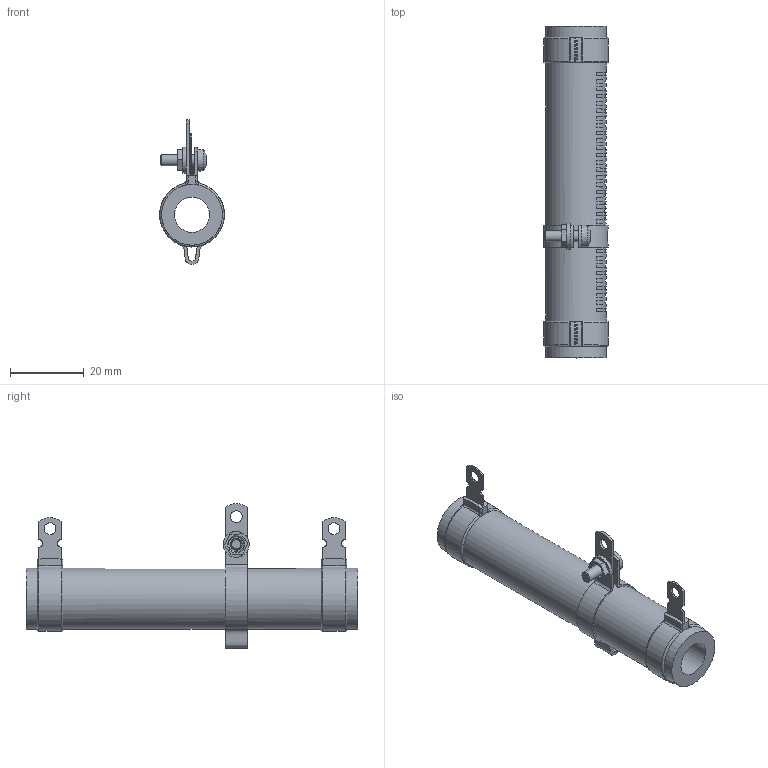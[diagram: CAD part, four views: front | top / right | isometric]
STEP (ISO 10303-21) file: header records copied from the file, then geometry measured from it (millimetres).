
FILE_DESCRIPTION(/* description */ (''),/* implementation_level */ '2;1');
FILE_NAME(/* name */ 'C:\_Vault\Dati\CATALOGO\RCA-RSA\R 25-1000\3D\RCAR 52.stp',/* time_stamp */ '2014-03-18T17:52:31+01:00',/* author */ ('stefano'),/* organization */ (''),/* preprocessor_version */ 'ST-DEVELOPER v15.2',/* originating_system */ 'Autodesk Inventor 2014',/* authorisation */ '');
FILE_SCHEMA (('AUTOMOTIVE_DESIGN { 1 0 10303 214 3 1 1 }'));
Length unit declared in the file: millimetre
Products named in the file (1): RCAR 52
Bounding box: 17.59 x 90 x 39.18 mm (x, y, z)
Volume: 13762.8 mm3; surface area: 9142.5 mm2
Topology: 1 solids, 1 shells, 307 faces, 759 edges, 493 vertices
Faces by surface type: plane 194, cylinder 77, cone 18, torus 13, bspline 4, sphere 1
Full cylindrical faces by diameter (mm): 2.75 x1, 3 x1, 3.2 x5, 4.134 x1, 7 x1, 9.5 x1, 16.5 x3
Entity records: 9576 total; most frequent: CARTESIAN_POINT 1882, DIRECTION 1576, ORIENTED_EDGE 1454, EDGE_CURVE 727, AXIS2_PLACEMENT_3D 585, VERTEX_POINT 483, LINE 406, VECTOR 406
